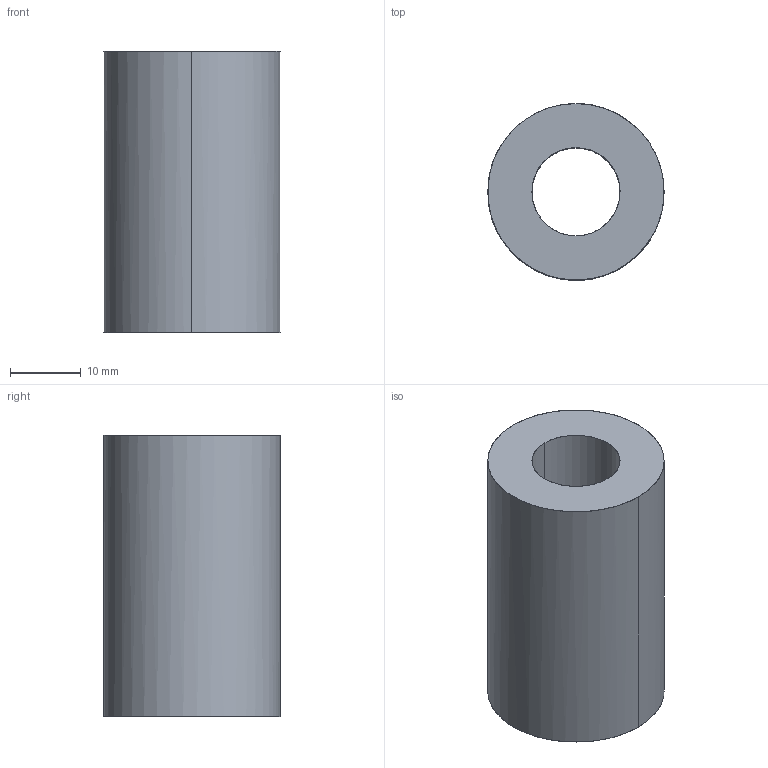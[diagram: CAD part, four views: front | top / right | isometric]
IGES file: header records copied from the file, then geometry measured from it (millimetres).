
Global section: file name: E:\UnigraphicsGraphicData\MISUMI_PRESS-PARTS\IGES\3d_swz25-40_00777_r00.igs; native system: NX V5.0; preprocessor: UGS NX IGES V5.0; author: MISUMI; date: 20110105.163303; units: millimetre
Bounding box: 25 x 25 x 40 mm (x, y, z)
Surface area: 5451.1 mm2 (no closed solid volume)
Topology: 0 solids, 0 shells, 6 faces, 48 edges, 48 vertices
Faces by surface type: bspline 6
